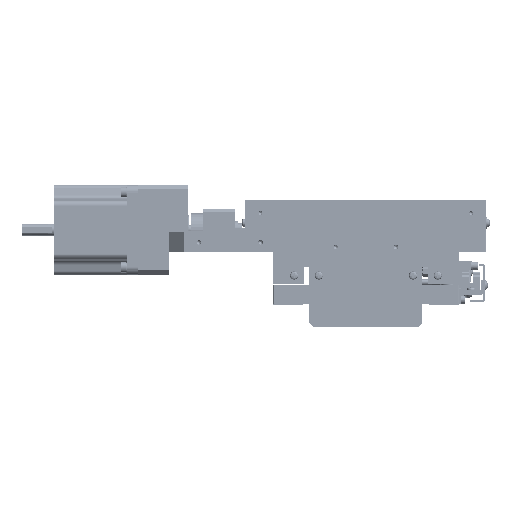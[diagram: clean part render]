
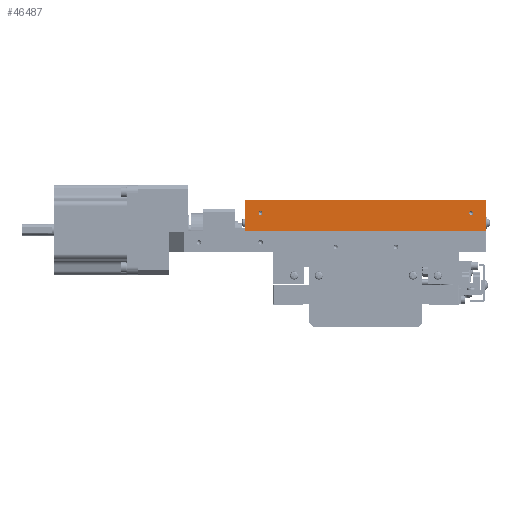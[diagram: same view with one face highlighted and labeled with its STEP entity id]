
A CAD part, left-side view. The second image highlights one B-rep face of the part: STEP entity #46487.
In plain terms, the highlighted planar face has unit normal (-1, 0, 0) as drawn and (0, -1, 0) by its records, which use the part's own axes.
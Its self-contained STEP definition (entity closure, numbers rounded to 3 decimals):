
#1228 = EDGE_LOOP ( 'NONE', ( #58575, #22237 ) ) ;
#6563 = EDGE_CURVE ( 'NONE', #40677, #78150, #14854, .T. ) ;
#7080 = ORIENTED_EDGE ( 'NONE', *, *, #120407, .T. ) ;
#7795 = CARTESIAN_POINT ( 'NONE',  ( 50.473, -238.894, 302.13 ) ) ;
#9638 = EDGE_CURVE ( 'NONE', #131507, #64594, #77436, .T. ) ;
#10425 = VECTOR ( 'NONE', #90326, 1000. ) ;
#11182 = CARTESIAN_POINT ( 'NONE',  ( 60.473, -238.894, 293.13 ) ) ;
#14854 = CIRCLE ( 'NONE', #68614, 1.3 ) ;
#16335 = AXIS2_PLACEMENT_3D ( 'NONE', #38572, #84156, #50611 ) ;
#18541 = EDGE_CURVE ( 'NONE', #78150, #40677, #35982, .T. ) ;
#22181 = DIRECTION ( 'NONE',  ( 0., -1., 0. ) ) ;
#22237 = ORIENTED_EDGE ( 'NONE', *, *, #93541, .F. ) ;
#25334 = AXIS2_PLACEMENT_3D ( 'NONE', #133657, #78650, #101093 ) ;
#35982 = CIRCLE ( 'NONE', #25334, 1.3 ) ;
#38572 = CARTESIAN_POINT ( 'NONE',  ( 200.473, -238.894, 293.13 ) ) ;
#40677 = VERTEX_POINT ( 'NONE', #76390 ) ;
#46487 = ADVANCED_FACE ( 'NONE', ( #56760, #65388, #132125 ), #129709, .T. ) ;
#47149 = ORIENTED_EDGE ( 'NONE', *, *, #98309, .F. ) ;
#49436 = CARTESIAN_POINT ( 'NONE',  ( 60.275, -238.894, 294.414 ) ) ;
#50321 = DIRECTION ( 'NONE',  ( 0., -1., 0. ) ) ;
#50611 = DIRECTION ( 'NONE',  ( 0.019, 0., 1. ) ) ;
#51271 = CARTESIAN_POINT ( 'NONE',  ( 50.473, -238.894, 281.13 ) ) ;
#52014 = EDGE_LOOP ( 'NONE', ( #109463, #117492 ) ) ;
#53146 = AXIS2_PLACEMENT_3D ( 'NONE', #109601, #66043, #87115 ) ;
#56315 = CARTESIAN_POINT ( 'NONE',  ( 210.473, -238.894, 281.13 ) ) ;
#56760 = FACE_BOUND ( 'NONE', #1228, .T. ) ;
#58575 = ORIENTED_EDGE ( 'NONE', *, *, #129443, .F. ) ;
#59575 = CARTESIAN_POINT ( 'NONE',  ( 200.448, -238.894, 291.83 ) ) ;
#61594 = VECTOR ( 'NONE', #128467, 1000. ) ;
#61802 = AXIS2_PLACEMENT_3D ( 'NONE', #115929, #50321, #83400 ) ;
#64594 = VERTEX_POINT ( 'NONE', #7795 ) ;
#65180 = ORIENTED_EDGE ( 'NONE', *, *, #88396, .T. ) ;
#65388 = FACE_BOUND ( 'NONE', #52014, .T. ) ;
#66043 = DIRECTION ( 'NONE',  ( 0., -1., 0. ) ) ;
#67023 = LINE ( 'NONE', #56315, #102951 ) ;
#68614 = AXIS2_PLACEMENT_3D ( 'NONE', #11182, #22181, #131041 ) ;
#68964 = CARTESIAN_POINT ( 'NONE',  ( 210.473, -238.894, 302.13 ) ) ;
#72030 = VERTEX_POINT ( 'NONE', #68964 ) ;
#76390 = CARTESIAN_POINT ( 'NONE',  ( 60.671, -238.894, 291.845 ) ) ;
#77436 = LINE ( 'NONE', #51271, #10425 ) ;
#78150 = VERTEX_POINT ( 'NONE', #49436 ) ;
#78219 = CARTESIAN_POINT ( 'NONE',  ( 210.473, -238.894, 281.13 ) ) ;
#78650 = DIRECTION ( 'NONE',  ( 0., -1., 0. ) ) ;
#79267 = DIRECTION ( 'NONE',  ( 0., 0., 1. ) ) ;
#79268 = VECTOR ( 'NONE', #101582, 1000. ) ;
#83400 = DIRECTION ( 'NONE',  ( 0.019, 0., 1. ) ) ;
#84156 = DIRECTION ( 'NONE',  ( 0., -1., 0. ) ) ;
#84736 = ORIENTED_EDGE ( 'NONE', *, *, #9638, .F. ) ;
#87115 = DIRECTION ( 'NONE',  ( -1., 0., 0. ) ) ;
#88396 = EDGE_CURVE ( 'NONE', #131540, #72030, #67023, .T. ) ;
#90326 = DIRECTION ( 'NONE',  ( 0., 0., 1. ) ) ;
#93541 = EDGE_CURVE ( 'NONE', #114578, #110464, #126885, .T. ) ;
#95441 = CARTESIAN_POINT ( 'NONE',  ( 210.473, -238.894, 281.13 ) ) ;
#98309 = EDGE_CURVE ( 'NONE', #131540, #131507, #140979, .T. ) ;
#101093 = DIRECTION ( 'NONE',  ( -0.152, 0., 0.988 ) ) ;
#101582 = DIRECTION ( 'NONE',  ( -1., 0., 0. ) ) ;
#102951 = VECTOR ( 'NONE', #79267, 1000. ) ;
#109463 = ORIENTED_EDGE ( 'NONE', *, *, #18541, .F. ) ;
#109601 = CARTESIAN_POINT ( 'NONE',  ( 210.473, -238.894, 281.13 ) ) ;
#110464 = VERTEX_POINT ( 'NONE', #141582 ) ;
#114578 = VERTEX_POINT ( 'NONE', #59575 ) ;
#115929 = CARTESIAN_POINT ( 'NONE',  ( 200.473, -238.894, 293.13 ) ) ;
#117492 = ORIENTED_EDGE ( 'NONE', *, *, #6563, .F. ) ;
#118275 = EDGE_LOOP ( 'NONE', ( #84736, #47149, #65180, #7080 ) ) ;
#120407 = EDGE_CURVE ( 'NONE', #72030, #64594, #142151, .T. ) ;
#120538 = CIRCLE ( 'NONE', #61802, 1.3 ) ;
#126885 = CIRCLE ( 'NONE', #16335, 1.3 ) ;
#127991 = CARTESIAN_POINT ( 'NONE',  ( 210.473, -238.894, 302.13 ) ) ;
#128467 = DIRECTION ( 'NONE',  ( -1., 0., 0. ) ) ;
#129443 = EDGE_CURVE ( 'NONE', #110464, #114578, #120538, .T. ) ;
#129709 = PLANE ( 'NONE',  #53146 ) ;
#131041 = DIRECTION ( 'NONE',  ( -0.152, 0., 0.988 ) ) ;
#131507 = VERTEX_POINT ( 'NONE', #137128 ) ;
#131540 = VERTEX_POINT ( 'NONE', #95441 ) ;
#132125 = FACE_OUTER_BOUND ( 'NONE', #118275, .T. ) ;
#133657 = CARTESIAN_POINT ( 'NONE',  ( 60.473, -238.894, 293.13 ) ) ;
#137128 = CARTESIAN_POINT ( 'NONE',  ( 50.473, -238.894, 281.13 ) ) ;
#140979 = LINE ( 'NONE', #78219, #79268 ) ;
#141582 = CARTESIAN_POINT ( 'NONE',  ( 200.498, -238.894, 294.429 ) ) ;
#142151 = LINE ( 'NONE', #127991, #61594 ) ;
